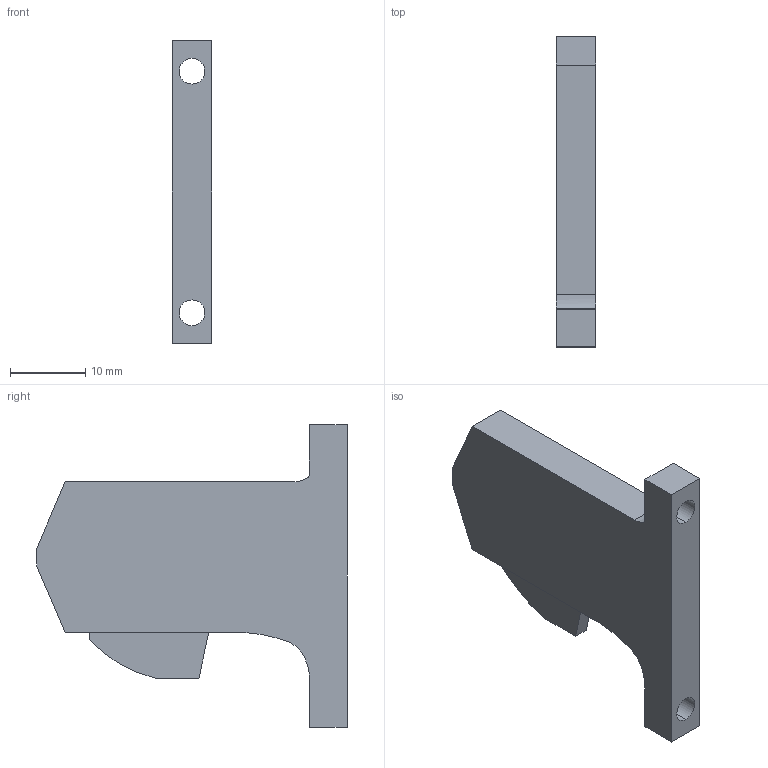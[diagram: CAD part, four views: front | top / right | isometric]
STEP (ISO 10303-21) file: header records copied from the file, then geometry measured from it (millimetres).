
FILE_DESCRIPTION (( 'STEP AP203' ), '1' );
FILE_NAME ('Vionaro V8 Frontbefestigung_Anschraubvariante_Rechts.STEP', '2023-01-18T10:27:40', ( '' ), ( '' ), 'SwSTEP 2.0', 'SolidWorks 2021', '' );
FILE_SCHEMA (( 'CONFIG_CONTROL_DESIGN' ));
Length unit declared in the file: millimetre
Products named in the file (1): Vionaro V8 Frontbefestigung_Anschraubvariante_Rechts
Bounding box: 5.3 x 41.13 x 40.1 mm (x, y, z)
Volume: 4828.9 mm3; surface area: 2845.6 mm2
Topology: 1 solids, 1 shells, 25 faces, 66 edges, 44 vertices
Faces by surface type: plane 17, cylinder 6, bspline 2
Entity records: 893 total; most frequent: CARTESIAN_POINT 186, ORIENTED_EDGE 132, DIRECTION 122, EDGE_CURVE 66, VECTOR 50, LINE 50, VERTEX_POINT 44, AXIS2_PLACEMENT_3D 36
